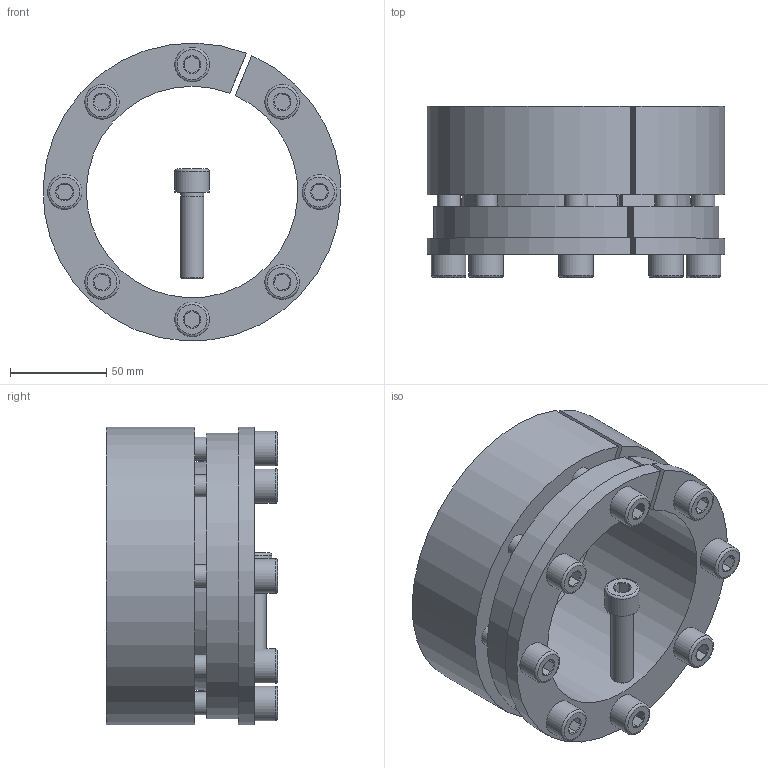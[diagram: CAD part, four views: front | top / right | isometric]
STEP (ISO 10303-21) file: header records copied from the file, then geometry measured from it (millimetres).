
FILE_DESCRIPTION( ( 'Unknown' ), '1' );
FILE_NAME( 'C:/Dokumente und Einstellungen/Sven/Desktop/homepage/cad - homepage/KBS70/KBS 70 - 110 x 155.stp', 'Unknown', ( 'Unknown' ), ( 'Unknown' ), 'XStep 1.0', 'Unknown', ' ' );
FILE_SCHEMA( ( 'automotive_design' ) );
Length unit declared in the file: millimetre
Products named in the file (3): Assem1; KBS 70 - 110 x 155; ISO EN DIN 4762 M12x45
Bounding box: 154.83 x 89 x 154.89 mm (x, y, z)
Volume: 1228851.7 mm3; surface area: 262581.5 mm2
Topology: 11 solids, 11 shells, 285 faces, 583 edges, 356 vertices
Faces by surface type: plane 124, cylinder 76, cone 67, torus 18
Full cylindrical faces by diameter (mm): 11 x9, 12 x50, 18 x9
Entity records: 1882 total; most frequent: CARTESIAN_POINT 305, DIRECTION 284, ORIENTED_EDGE 206, AXIS2_PLACEMENT_3D 126, EDGE_LOOP 114, EDGE_CURVE 103, VERTEX_POINT 79, FACE_OUTER_BOUND 77
